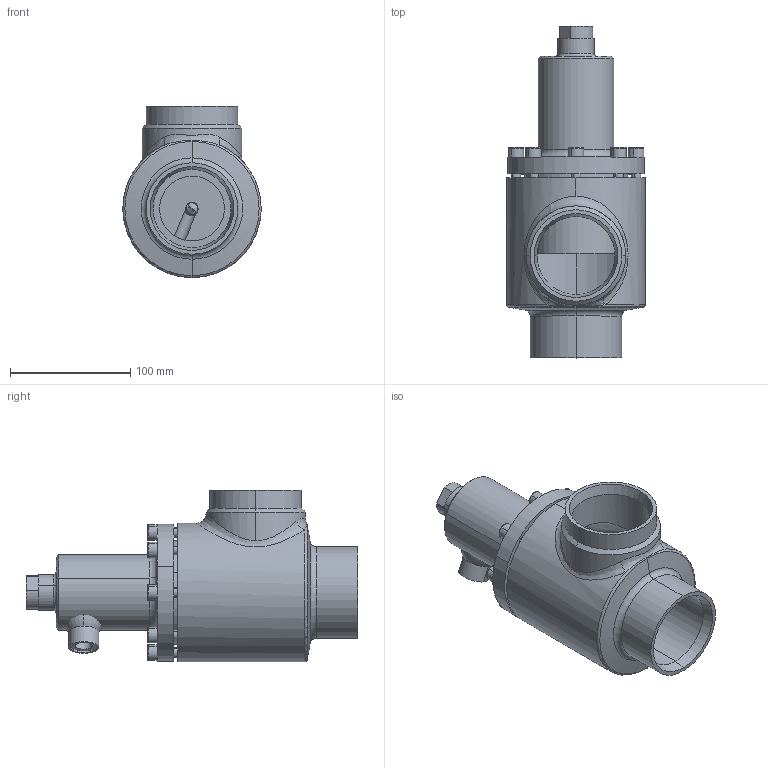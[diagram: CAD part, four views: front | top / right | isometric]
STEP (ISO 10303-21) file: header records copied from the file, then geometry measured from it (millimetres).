
FILE_DESCRIPTION (( 'STEP AP214' ), '1' );
FILE_NAME ('RVD4280xC17-DN65_5-10bar.STEP', '2007-01-10T14:57:16', ( 'Herr Grams' ), ( 'AWP GmbH' ), 'SwSTEP 2.0', 'SolidWorks 2002296', '' );
FILE_SCHEMA (( 'AUTOMOTIVE_DESIGN' ));
Length unit declared in the file: millimetre
Products named in the file (9): RVD4280xC17-DN65_5-10bar; Gehäuse16400-DN065_Standard; Verschlußschr4270xE17-DN65_1-9bar_M12x  52_8bar; RVD42705B17_Deck+Schr-DN65_5-10bar_Standard; Deck-kpl42705E17-DN65_5-10bar_Standard; Gew-Muffe441_M16x1,5_Standard; Deckel42705B17-DN65_5-10bar_PS40_Standard; Schw-Rd25_DN65_Standard; Zylinderschraube-DIN912_M 8x 25
Assembly tree (15 placements, depth 4):
  RVD4280xC17-DN65_5-10bar
    Gehäuse16400-DN065_Standard
    Verschlußschr4270xE17-DN65_1-9bar_M12x  52_8bar
    RVD42705B17_Deck+Schr-DN65_5-10bar_Standard
      Zylinderschraube-DIN912_M 8x 25  x8
      Deck-kpl42705E17-DN65_5-10bar_Standard
        Schw-Rd25_DN65_Standard
        Gew-Muffe441_M16x1,5_Standard
        Deckel42705B17-DN65_5-10bar_PS40_Standard
Bounding box: 115 x 276 x 142.5 mm (x, y, z)
Volume: 781788.8 mm3; surface area: 221377.9 mm2
Topology: 13 solids, 13 shells, 276 faces, 608 edges, 381 vertices
Faces by surface type: plane 104, cylinder 103, cone 41, torus 26, bspline 2
Entity records: 15442 total; most frequent: CARTESIAN_POINT 11404, DIRECTION 833, ORIENTED_EDGE 680, AXIS2_PLACEMENT_3D 353, EDGE_CURVE 340, VERTEX_POINT 213, EDGE_LOOP 189, CIRCLE 185
